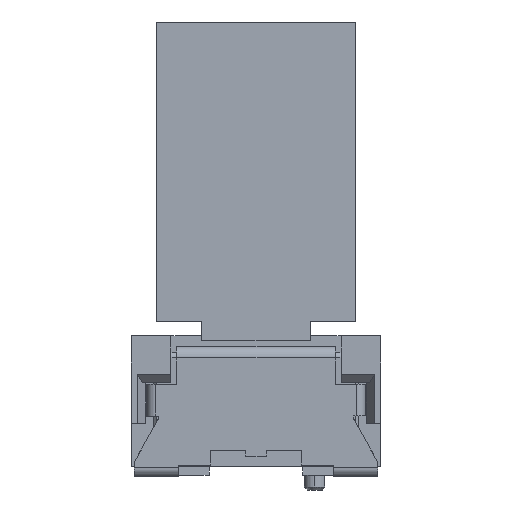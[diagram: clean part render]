
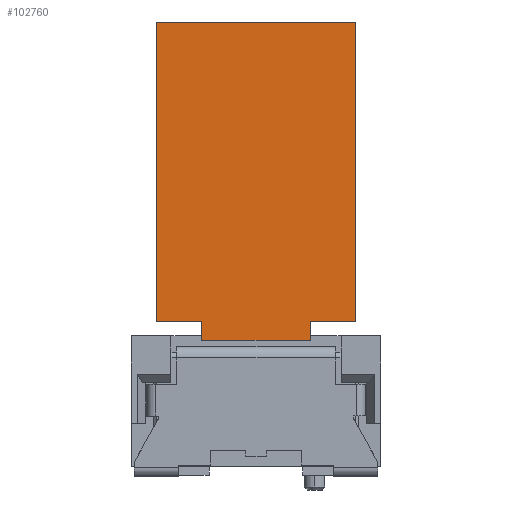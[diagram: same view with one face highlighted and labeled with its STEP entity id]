
A CAD part, left-side view. The second image highlights one B-rep face of the part: STEP entity #102760.
In plain terms, the highlighted planar face has unit normal (-1, 0, 0).
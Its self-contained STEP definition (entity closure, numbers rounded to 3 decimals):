
#41280=CARTESIAN_POINT('',(-11.054,29.1,13.848));
#41290=DIRECTION('',(0.,0.,1.));
#41300=VECTOR('',#41290,1.);
#41310=LINE('',#41280,#41300);
#41320=CARTESIAN_POINT('',(-11.054,29.1,12.9));
#41330=VERTEX_POINT('',#41320);
#41340=CARTESIAN_POINT('',(-11.054,29.1,13.55));
#41350=VERTEX_POINT('',#41340);
#41360=EDGE_CURVE('',#41330,#41350,#41310,.T.);
#41750=CARTESIAN_POINT('',(-11.054,30.22,12.9));
#41760=DIRECTION('',(0.,-1.,0.));
#41770=VECTOR('',#41760,1.);
#41780=LINE('',#41750,#41770);
#41790=CARTESIAN_POINT('',(-11.054,25.4,12.9));
#41800=VERTEX_POINT('',#41790);
#41810=EDGE_CURVE('',#41330,#41800,#41780,.T.);
#102210=CARTESIAN_POINT('',(-11.054,23.85,23.75));
#102220=DIRECTION('',(-1.,0.,0.));
#102230=DIRECTION('',(0.,0.,1.));
#102240=AXIS2_PLACEMENT_3D('',#102210,#102220,#102230);
#102250=PLANE('',#102240);
#102260=ORIENTED_EDGE('',*,*,#41810,.T.);
#102270=ORIENTED_EDGE('',*,*,#41360,.F.);
#102280=CARTESIAN_POINT('',(-11.054,30.22,13.55));
#102290=DIRECTION('',(0.,1.,0.));
#102300=VECTOR('',#102290,1.);
#102310=LINE('',#102280,#102300);
#102320=CARTESIAN_POINT('',(-11.054,30.65,13.55));
#102330=VERTEX_POINT('',#102320);
#102340=EDGE_CURVE('',#41350,#102330,#102310,.T.);
#102350=ORIENTED_EDGE('',*,*,#102340,.F.);
#102360=CARTESIAN_POINT('',(-11.054,30.65,11.165));
#102370=DIRECTION('',(0.,0.,1.));
#102380=VECTOR('',#102370,1.);
#102390=LINE('',#102360,#102380);
#102400=CARTESIAN_POINT('',(-11.054,30.65,23.75));
#102410=VERTEX_POINT('',#102400);
#102420=EDGE_CURVE('',#102330,#102410,#102390,.T.);
#102430=ORIENTED_EDGE('',*,*,#102420,.F.);
#102440=CARTESIAN_POINT('',(-11.054,30.22,23.75));
#102450=DIRECTION('',(0.,-1.,0.));
#102460=VECTOR('',#102450,1.);
#102470=LINE('',#102440,#102460);
#102480=CARTESIAN_POINT('',(-11.054,23.85,23.75));
#102490=VERTEX_POINT('',#102480);
#102500=EDGE_CURVE('',#102410,#102490,#102470,.T.);
#102510=ORIENTED_EDGE('',*,*,#102500,.F.);
#102520=CARTESIAN_POINT('',(-11.054,23.85,11.165));
#102530=DIRECTION('',(0.,0.,-1.));
#102540=VECTOR('',#102530,1.);
#102550=LINE('',#102520,#102540);
#102560=CARTESIAN_POINT('',(-11.054,23.85,13.55));
#102570=VERTEX_POINT('',#102560);
#102580=EDGE_CURVE('',#102490,#102570,#102550,.T.);
#102590=ORIENTED_EDGE('',*,*,#102580,.F.);
#102600=CARTESIAN_POINT('',(-11.054,30.22,13.55));
#102610=DIRECTION('',(0.,1.,0.));
#102620=VECTOR('',#102610,1.);
#102630=LINE('',#102600,#102620);
#102640=CARTESIAN_POINT('',(-11.054,25.4,13.55));
#102650=VERTEX_POINT('',#102640);
#102660=EDGE_CURVE('',#102570,#102650,#102630,.T.);
#102670=ORIENTED_EDGE('',*,*,#102660,.F.);
#102680=CARTESIAN_POINT('',(-11.054,25.4,13.848));
#102690=DIRECTION('',(0.,0.,1.));
#102700=VECTOR('',#102690,1.);
#102710=LINE('',#102680,#102700);
#102720=EDGE_CURVE('',#41800,#102650,#102710,.T.);
#102730=ORIENTED_EDGE('',*,*,#102720,.T.);
#102740=EDGE_LOOP('',(#102730,#102670,#102590,#102510,#102430,#102350,
#102270,#102260));
#102750=FACE_OUTER_BOUND('',#102740,.T.);
#102760=ADVANCED_FACE('',(#102750),#102250,.T.);
